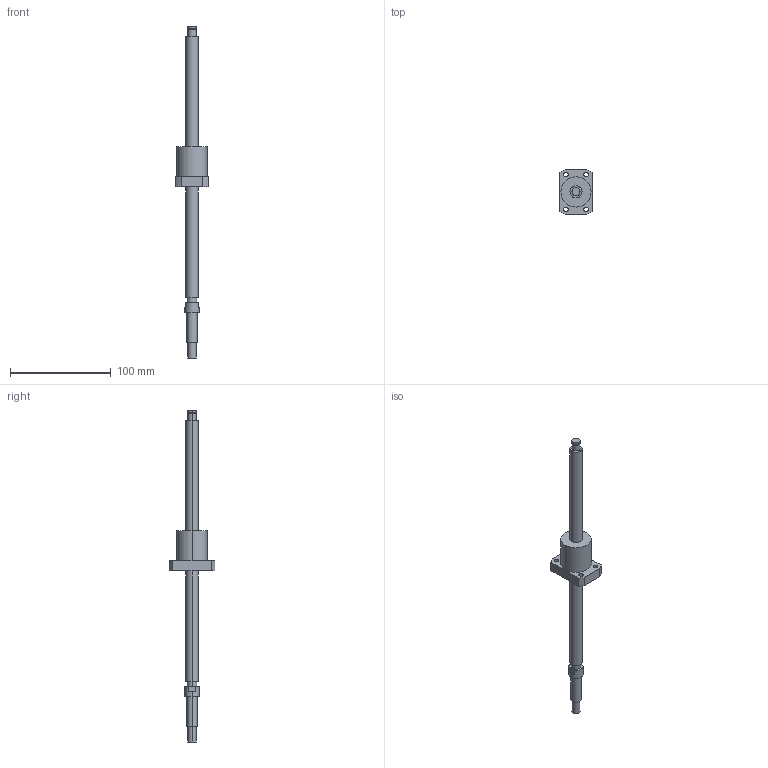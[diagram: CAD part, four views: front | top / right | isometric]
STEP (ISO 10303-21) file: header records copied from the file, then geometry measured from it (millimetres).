
FILE_DESCRIPTION((''),'2;1');
FILE_NAME('R12-5B1-FSW-260-330','2008-03-28T',('mahdi'),(''),'PRO/ENGINEER BY PARAMETRIC TECHNOLOGY CORPORATION, 2005070','PRO/ENGINEER BY PARAMETRIC TECHNOLOGY CORPORATION, 2005070','');
FILE_SCHEMA(('CONFIG_CONTROL_DESIGN'));
Length unit declared in the file: millimetre
Products named in the file (1): R12-5B1-FSW-260-330
Bounding box: 32 x 45 x 330 mm (x, y, z)
Volume: 64448.8 mm3; surface area: 18333 mm2
Topology: 1 solids, 1 shells, 64 faces, 144 edges, 96 vertices
Faces by surface type: cylinder 40, plane 24
Entity records: 1886 total; most frequent: DIRECTION 356, CARTESIAN_POINT 304, ORIENTED_EDGE 288, AXIS2_PLACEMENT_3D 148, EDGE_CURVE 144, VERTEX_POINT 96, EDGE_LOOP 86, CIRCLE 84
